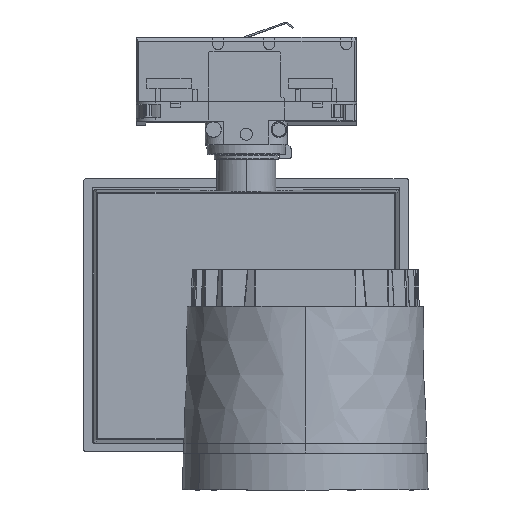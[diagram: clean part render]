
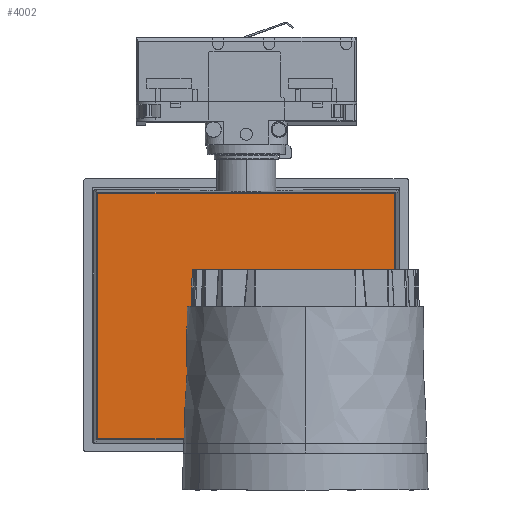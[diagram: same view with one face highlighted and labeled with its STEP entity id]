
A CAD part, left-side view. The second image highlights one B-rep face of the part: STEP entity #4002.
In plain terms, the highlighted planar face has unit normal (-1, 0, 0).
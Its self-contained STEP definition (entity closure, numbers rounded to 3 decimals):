
#16=FACE_BOUND('',#5558,.T.);
#656=(
BOUNDED_CURVE()
B_SPLINE_CURVE(2,(#27890,#27891,#27892,#27893,#27894,#27895,#27896,#27897,
#27898,#27899,#27900,#27901,#27902),.UNSPECIFIED.,.T.,.F.)
B_SPLINE_CURVE_WITH_KNOTS((3,2,2,2,2,2,3),(32.987,35.61,
50.792,65.973,68.597,83.778,98.96),
 .UNSPECIFIED.)
CURVE()
GEOMETRIC_REPRESENTATION_ITEM()
RATIONAL_B_SPLINE_CURVE((1.,0.992,1.,0.75,1.,0.75,
1.,0.992,1.,0.75,1.,0.75,1.))
REPRESENTATION_ITEM('')
);
#4002=ADVANCED_FACE('',(#4777,#16),#20680,.T.);
#4777=FACE_OUTER_BOUND('',#5557,.T.);
#5557=EDGE_LOOP('',(#6590,#6591,#6592,#6593));
#5558=EDGE_LOOP('',(#6594));
#6590=ORIENTED_EDGE('',*,*,#10668,.F.);
#6591=ORIENTED_EDGE('',*,*,#10666,.F.);
#6592=ORIENTED_EDGE('',*,*,#10667,.F.);
#6593=ORIENTED_EDGE('',*,*,#10669,.T.);
#6594=ORIENTED_EDGE('',*,*,#10670,.F.);
#10666=EDGE_CURVE('',#16886,#16885,#14602,.T.);
#10667=EDGE_CURVE('',#16887,#16886,#14603,.T.);
#10668=EDGE_CURVE('',#16885,#16888,#14604,.T.);
#10669=EDGE_CURVE('',#16887,#16888,#14605,.T.);
#10670=EDGE_CURVE('',#16884,#16884,#656,.T.);
#14602=B_SPLINE_CURVE_WITH_KNOTS('',1,(#27882,#27883),.UNSPECIFIED.,.F.,
 .F.,(2,2),(-120.826,0.),.UNSPECIFIED.);
#14603=B_SPLINE_CURVE_WITH_KNOTS('',1,(#27884,#27885),.UNSPECIFIED.,.F.,
 .F.,(2,2),(-99.826,0.),.UNSPECIFIED.);
#14604=B_SPLINE_CURVE_WITH_KNOTS('',1,(#27886,#27887),.UNSPECIFIED.,.F.,
 .F.,(2,2),(-99.826,0.),.UNSPECIFIED.);
#14605=B_SPLINE_CURVE_WITH_KNOTS('',1,(#27888,#27889),.UNSPECIFIED.,.F.,
 .F.,(2,2),(0.,120.826),.UNSPECIFIED.);
#16884=VERTEX_POINT('',#27877);
#16885=VERTEX_POINT('',#27878);
#16886=VERTEX_POINT('',#27879);
#16887=VERTEX_POINT('',#27880);
#16888=VERTEX_POINT('',#27881);
#20680=PLANE('',#21035);
#21035=AXIS2_PLACEMENT_3D('',#27876,#21305,$);
#21305=DIRECTION('',(-1.,0.,0.));
#27876=CARTESIAN_POINT('',(14.,145.105,37.384));
#27877=CARTESIAN_POINT('',(14.,58.5,-36.621));
#27878=CARTESIAN_POINT('',(14.,11.587,26.792));
#27879=CARTESIAN_POINT('',(14.,132.413,26.792));
#27880=CARTESIAN_POINT('',(14.,132.413,-73.034));
#27881=CARTESIAN_POINT('',(14.,11.587,-73.034));
#27882=CARTESIAN_POINT('',(14.,132.413,26.792));
#27883=CARTESIAN_POINT('',(14.,11.587,26.792));
#27884=CARTESIAN_POINT('',(14.,132.413,-73.034));
#27885=CARTESIAN_POINT('',(14.,132.413,26.792));
#27886=CARTESIAN_POINT('',(14.,11.587,26.792));
#27887=CARTESIAN_POINT('',(14.,11.587,-73.034));
#27888=CARTESIAN_POINT('',(14.,132.413,-73.034));
#27889=CARTESIAN_POINT('',(14.,11.587,-73.034));
#27890=CARTESIAN_POINT('',(14.,58.5,-36.621));
#27891=CARTESIAN_POINT('',(14.,58.5,-37.94));
#27892=CARTESIAN_POINT('',(14.,58.174,-39.217));
#27893=CARTESIAN_POINT('',(14.,55.883,-48.194));
#27894=CARTESIAN_POINT('',(14.,46.692,-47.039));
#27895=CARTESIAN_POINT('',(14.,37.5,-45.885));
#27896=CARTESIAN_POINT('',(14.,37.5,-36.621));
#27897=CARTESIAN_POINT('',(14.,37.5,-35.303));
#27898=CARTESIAN_POINT('',(14.,37.826,-34.025));
#27899=CARTESIAN_POINT('',(14.,40.117,-25.049));
#27900=CARTESIAN_POINT('',(14.,49.308,-26.203));
#27901=CARTESIAN_POINT('',(14.,58.5,-27.357));
#27902=CARTESIAN_POINT('',(14.,58.5,-36.621));
